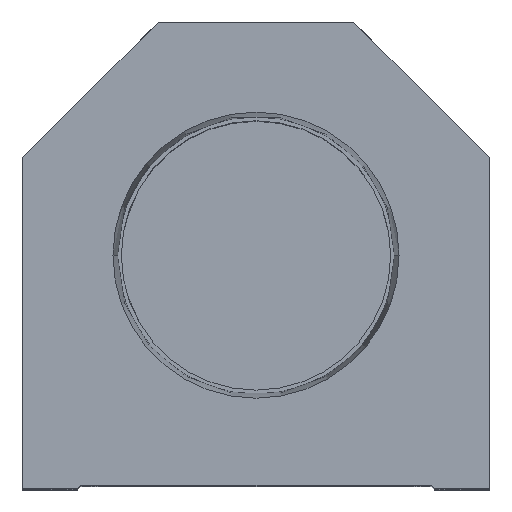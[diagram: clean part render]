
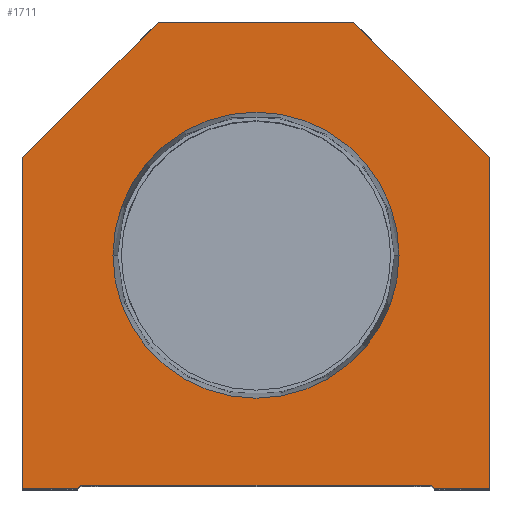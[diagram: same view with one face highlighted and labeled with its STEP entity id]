
A CAD part, top view. The second image highlights one B-rep face of the part: STEP entity #1711.
In plain terms, the highlighted planar face has unit normal (0, 0, 1).
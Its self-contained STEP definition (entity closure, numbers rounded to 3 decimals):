
#402 = CARTESIAN_POINT ( 'NONE',  ( 0., 0., 0. ) ) ;
#1125 = EDGE_LOOP ( 'NONE', ( #15453, #3435 ) ) ;
#1311 = ORIENTED_EDGE ( 'NONE', *, *, #7013, .T. ) ;
#1415 = DIRECTION ( 'NONE',  ( 1., 0., 0. ) ) ;
#1526 = EDGE_LOOP ( 'NONE', ( #3940, #8932, #2675, #6507, #2632, #3138, #15444, #15220, #4985, #1311 ) ) ;
#1711 = ADVANCED_FACE ( 'NONE', ( #10564, #6072 ), #16370, .T. ) ;
#1800 = VERTEX_POINT ( 'NONE', #3452 ) ;
#2111 = CARTESIAN_POINT ( 'NONE',  ( 14.55, 14.55, 0. ) ) ;
#2494 = CARTESIAN_POINT ( 'NONE',  ( 29.1, 0., 0. ) ) ;
#2543 = VECTOR ( 'NONE', #3394, 1000. ) ;
#2632 = ORIENTED_EDGE ( 'NONE', *, *, #11542, .T. ) ;
#2675 = ORIENTED_EDGE ( 'NONE', *, *, #17212, .T. ) ;
#2769 = DIRECTION ( 'NONE',  ( 0., 1., 0. ) ) ;
#2889 = DIRECTION ( 'NONE',  ( -0.707, -0.707, 0. ) ) ;
#2993 = LINE ( 'NONE', #17088, #12225 ) ;
#3077 = DIRECTION ( 'NONE',  ( 1., 0., 0. ) ) ;
#3137 = DIRECTION ( 'NONE',  ( 0., -1., 0. ) ) ;
#3138 = ORIENTED_EDGE ( 'NONE', *, *, #15193, .T. ) ;
#3371 = LINE ( 'NONE', #4968, #14972 ) ;
#3394 = DIRECTION ( 'NONE',  ( 1., 0., 0. ) ) ;
#3432 = VECTOR ( 'NONE', #15990, 1000. ) ;
#3435 = ORIENTED_EDGE ( 'NONE', *, *, #15906, .F. ) ;
#3442 = VERTEX_POINT ( 'NONE', #12550 ) ;
#3452 = CARTESIAN_POINT ( 'NONE',  ( 38.1, 54.1, 0. ) ) ;
#3818 = VERTEX_POINT ( 'NONE', #4021 ) ;
#3940 = ORIENTED_EDGE ( 'NONE', *, *, #4809, .T. ) ;
#4021 = CARTESIAN_POINT ( 'NONE',  ( -29.1, 0., 0. ) ) ;
#4073 = VERTEX_POINT ( 'NONE', #9564 ) ;
#4108 = DIRECTION ( 'NONE',  ( 0.707, 0.707, 0. ) ) ;
#4441 = VERTEX_POINT ( 'NONE', #15418 ) ;
#4664 = LINE ( 'NONE', #8953, #3432 ) ;
#4805 = LINE ( 'NONE', #7778, #15321 ) ;
#4809 = EDGE_CURVE ( 'NONE', #10780, #3818, #16306, .T. ) ;
#4968 = CARTESIAN_POINT ( 'NONE',  ( -28.6, 0.5, 0. ) ) ;
#4985 = ORIENTED_EDGE ( 'NONE', *, *, #8612, .T. ) ;
#5669 = LINE ( 'NONE', #9962, #12063 ) ;
#6072 = FACE_OUTER_BOUND ( 'NONE', #1526, .T. ) ;
#6109 = CARTESIAN_POINT ( 'NONE',  ( 16., 76.2, 0. ) ) ;
#6119 = EDGE_CURVE ( 'NONE', #10903, #4441, #6343, .T. ) ;
#6126 = DIRECTION ( 'NONE',  ( 1., 0., 0. ) ) ;
#6343 = LINE ( 'NONE', #17397, #13743 ) ;
#6507 = ORIENTED_EDGE ( 'NONE', *, *, #7527, .T. ) ;
#6519 = AXIS2_PLACEMENT_3D ( 'NONE', #10358, #17529, #3077 ) ;
#7013 = EDGE_CURVE ( 'NONE', #15518, #10780, #4805, .T. ) ;
#7527 = EDGE_CURVE ( 'NONE', #3442, #7645, #13421, .T. ) ;
#7645 = VERTEX_POINT ( 'NONE', #2494 ) ;
#7778 = CARTESIAN_POINT ( 'NONE',  ( -38.1, 0., 0. ) ) ;
#8612 = EDGE_CURVE ( 'NONE', #4441, #15518, #5669, .T. ) ;
#8932 = ORIENTED_EDGE ( 'NONE', *, *, #11646, .T. ) ;
#8953 = CARTESIAN_POINT ( 'NONE',  ( 38.1, 54.1, 0. ) ) ;
#9564 = CARTESIAN_POINT ( 'NONE',  ( -23.374, 38.1, 0. ) ) ;
#9959 = EDGE_CURVE ( 'NONE', #16570, #4073, #17120, .T. ) ;
#9962 = CARTESIAN_POINT ( 'NONE',  ( -38.1, 54.1, 0. ) ) ;
#10331 = CARTESIAN_POINT ( 'NONE',  ( -28.6, 0., 0. ) ) ;
#10358 = CARTESIAN_POINT ( 'NONE',  ( 0., 38.1, 0. ) ) ;
#10416 = CARTESIAN_POINT ( 'NONE',  ( 38.1, 0., 0. ) ) ;
#10564 = FACE_BOUND ( 'NONE', #1125, .T. ) ;
#10727 = CIRCLE ( 'NONE', #6519, 23.374 ) ;
#10780 = VERTEX_POINT ( 'NONE', #11022 ) ;
#10903 = VERTEX_POINT ( 'NONE', #6109 ) ;
#11022 = CARTESIAN_POINT ( 'NONE',  ( -38.1, 0., 0. ) ) ;
#11267 = LINE ( 'NONE', #16965, #14521 ) ;
#11454 = VECTOR ( 'NONE', #11913, 1000. ) ;
#11542 = EDGE_CURVE ( 'NONE', #7645, #12080, #2993, .T. ) ;
#11646 = EDGE_CURVE ( 'NONE', #3818, #17582, #15708, .T. ) ;
#11913 = DIRECTION ( 'NONE',  ( 0.707, -0.707, 0. ) ) ;
#12063 = VECTOR ( 'NONE', #2889, 1000. ) ;
#12071 = DIRECTION ( 'NONE',  ( -1., 0., 0. ) ) ;
#12080 = VERTEX_POINT ( 'NONE', #10416 ) ;
#12225 = VECTOR ( 'NONE', #1415, 1000. ) ;
#12520 = VECTOR ( 'NONE', #4108, 1000. ) ;
#12550 = CARTESIAN_POINT ( 'NONE',  ( 28.6, 0.5, 0. ) ) ;
#12603 = CARTESIAN_POINT ( 'NONE',  ( 23.374, 38.1, 0. ) ) ;
#13381 = DIRECTION ( 'NONE',  ( 0., 0., 1. ) ) ;
#13421 = LINE ( 'NONE', #2111, #11454 ) ;
#13521 = DIRECTION ( 'NONE',  ( 0., 0., 1. ) ) ;
#13574 = CARTESIAN_POINT ( 'NONE',  ( -38.1, 54.1, 0. ) ) ;
#13743 = VECTOR ( 'NONE', #12071, 1000. ) ;
#14521 = VECTOR ( 'NONE', #2769, 1000. ) ;
#14608 = EDGE_CURVE ( 'NONE', #1800, #10903, #4664, .T. ) ;
#14793 = DIRECTION ( 'NONE',  ( 1., 0., 0. ) ) ;
#14972 = VECTOR ( 'NONE', #14793, 1000. ) ;
#14976 = DIRECTION ( 'NONE',  ( 1., 0., 0. ) ) ;
#15193 = EDGE_CURVE ( 'NONE', #12080, #1800, #11267, .T. ) ;
#15220 = ORIENTED_EDGE ( 'NONE', *, *, #6119, .T. ) ;
#15321 = VECTOR ( 'NONE', #3137, 1000. ) ;
#15348 = AXIS2_PLACEMENT_3D ( 'NONE', #16520, #13521, #6126 ) ;
#15418 = CARTESIAN_POINT ( 'NONE',  ( -16., 76.2, 0. ) ) ;
#15444 = ORIENTED_EDGE ( 'NONE', *, *, #14608, .T. ) ;
#15453 = ORIENTED_EDGE ( 'NONE', *, *, #9959, .F. ) ;
#15518 = VERTEX_POINT ( 'NONE', #13574 ) ;
#15708 = LINE ( 'NONE', #18289, #12520 ) ;
#15906 = EDGE_CURVE ( 'NONE', #4073, #16570, #10727, .T. ) ;
#15990 = DIRECTION ( 'NONE',  ( -0.707, 0.707, 0. ) ) ;
#16306 = LINE ( 'NONE', #10331, #2543 ) ;
#16370 = PLANE ( 'NONE',  #17717 ) ;
#16520 = CARTESIAN_POINT ( 'NONE',  ( 0., 38.1, 0. ) ) ;
#16570 = VERTEX_POINT ( 'NONE', #12603 ) ;
#16965 = CARTESIAN_POINT ( 'NONE',  ( 38.1, 0., 0. ) ) ;
#17088 = CARTESIAN_POINT ( 'NONE',  ( 28.6, 0., 0. ) ) ;
#17120 = CIRCLE ( 'NONE', #15348, 23.374 ) ;
#17174 = CARTESIAN_POINT ( 'NONE',  ( -28.6, 0.5, 0. ) ) ;
#17212 = EDGE_CURVE ( 'NONE', #17582, #3442, #3371, .T. ) ;
#17397 = CARTESIAN_POINT ( 'NONE',  ( 16., 76.2, 0. ) ) ;
#17529 = DIRECTION ( 'NONE',  ( 0., 0., 1. ) ) ;
#17582 = VERTEX_POINT ( 'NONE', #17174 ) ;
#17717 = AXIS2_PLACEMENT_3D ( 'NONE', #402, #13381, #14976 ) ;
#18289 = CARTESIAN_POINT ( 'NONE',  ( -14.55, 14.55, 0. ) ) ;
